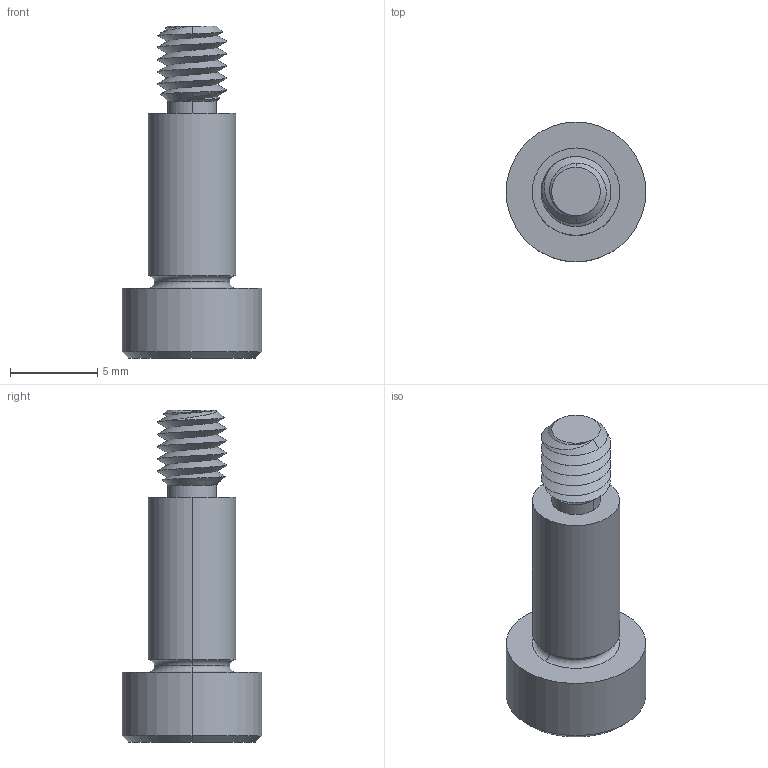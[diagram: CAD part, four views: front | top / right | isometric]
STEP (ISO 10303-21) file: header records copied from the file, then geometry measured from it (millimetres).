
FILE_DESCRIPTION (( 'STEP AP203' ), '1' );
FILE_NAME ('P0130.050-010-B2.step', '2021-11-09T21:13:18', ( '' ), ( '' ), 'SwSTEP 2.0', 'SolidWorks 2019', '' );
FILE_SCHEMA (( 'CONFIG_CONTROL_DESIGN' ));
Length unit declared in the file: millimetre
Products named in the file (1): P0130.050-010-B2
Bounding box: 8 x 8 x 19 mm (x, y, z)
Volume: 420.6 mm3; surface area: 472.6 mm2
Topology: 1 solids, 1 shells, 53 faces, 121 edges, 71 vertices
Faces by surface type: cylinder 16, plane 16, cone 15, torus 4, bspline 2
Entity records: 2151 total; most frequent: CARTESIAN_POINT 968, ORIENTED_EDGE 238, DIRECTION 226, EDGE_CURVE 119, AXIS2_PLACEMENT_3D 92, VERTEX_POINT 71, EDGE_LOOP 56, ADVANCED_FACE 53
